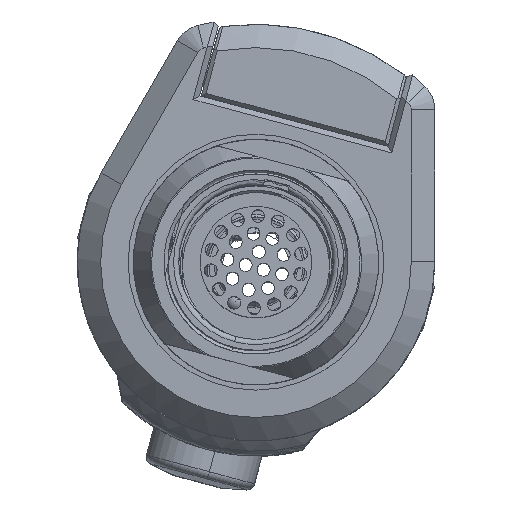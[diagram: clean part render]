
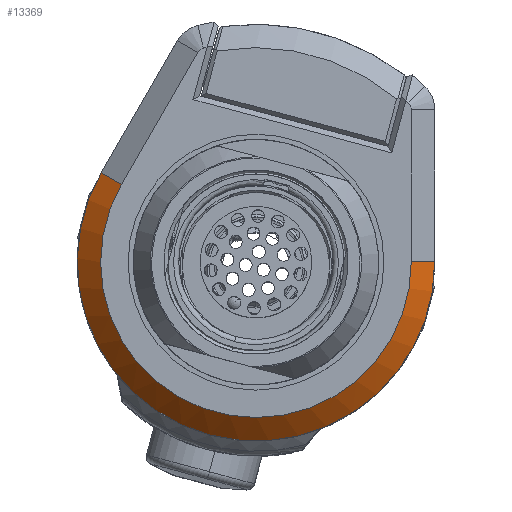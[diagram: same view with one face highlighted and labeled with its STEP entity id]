
A CAD part, top view. The second image highlights one B-rep face of the part: STEP entity #13369.
In plain terms, the highlighted conical face has half-angle 45 degrees and reference radius 17.462 mm.
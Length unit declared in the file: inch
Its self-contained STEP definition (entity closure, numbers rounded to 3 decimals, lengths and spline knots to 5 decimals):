
#572 = CARTESIAN_POINT ( 'NONE',  ( 0., 0., 3.7346 ) ) ;
#3514 = CARTESIAN_POINT ( 'NONE',  ( -0.59539, 0.34375, 3.7346 ) ) ;
#3517 = DIRECTION ( 'NONE',  ( 0.612, -0.354, 0.707 ) ) ;
#3545 = CARTESIAN_POINT ( 'NONE',  ( 0., 0., 3.7346 ) ) ;
#3556 = DIRECTION ( 'NONE',  ( 0.259, 0.966, 0. ) ) ;
#3558 = DIRECTION ( 'NONE',  ( 0., 0., 1. ) ) ;
#3560 = DIRECTION ( 'NONE',  ( 0., 0., -1. ) ) ;
#3562 = DIRECTION ( 'NONE',  ( 0.259, 0.966, 0. ) ) ;
#3564 = CARTESIAN_POINT ( 'NONE',  ( 0., 0., 3.8246 ) ) ;
#3566 = LINE ( 'NONE', #3514, #11926 ) ;
#3623 = CARTESIAN_POINT ( 'NONE',  ( 0.65749, 0.00264, 3.7646 ) ) ;
#4035 = CARTESIAN_POINT ( 'NONE',  ( 0.68749, 0.0027, 3.7346 ) ) ;
#4049 = CARTESIAN_POINT ( 'NONE',  ( 0.62749, 0.00258, 3.7946 ) ) ;
#4050 = CARTESIAN_POINT ( 'NONE',  ( 0.59749, 0.00252, 3.8246 ) ) ;
#4981 = CARTESIAN_POINT ( 'NONE',  ( -0.59539, 0.34375, 3.7346 ) ) ;
#5067 = CARTESIAN_POINT ( 'NONE',  ( -0.17794, -0.66407, 3.7346 ) ) ;
#7134 = CARTESIAN_POINT ( 'NONE',  ( 0.68749, 0.0027, 3.7346 ) ) ;
#7256 = CARTESIAN_POINT ( 'NONE',  ( 0.59749, 0.00252, 3.8246 ) ) ;
#7344 = CARTESIAN_POINT ( 'NONE',  ( -0.51745, 0.29875, 3.8246 ) ) ;
#8660 = DIRECTION ( 'NONE',  ( 0.259, 0.966, 0. ) ) ;
#8661 = DIRECTION ( 'NONE',  ( 0., 0., -1. ) ) ;
#11518 = AXIS2_PLACEMENT_3D ( 'NONE', #572, #8661, #8660 ) ;
#11542 = FACE_OUTER_BOUND ( 'NONE', #20020, .T. ) ;
#11926 = VECTOR ( 'NONE', #3517, 39.37008 ) ;
#11981 = AXIS2_PLACEMENT_3D ( 'NONE', #3564, #3558, #3562 ) ;
#11983 = AXIS2_PLACEMENT_3D ( 'NONE', #3545, #3560, #3556 ) ;
#12122 = AXIS2_PLACEMENT_3D ( 'NONE', #19166, #19161, #19160 ) ;
#13000 = EDGE_CURVE ( 'NONE', #21076, #21240, #14515, .T. ) ;
#13010 = EDGE_CURVE ( 'NONE', #21076, #22795, #14553, .T. ) ;
#13011 = EDGE_CURVE ( 'NONE', #21360, #21240, #14558, .T. ) ;
#13012 = EDGE_CURVE ( 'NONE', #22576, #21360, #3566, .T. ) ;
#13145 = EDGE_CURVE ( 'NONE', #22795, #22576, #14503, .T. ) ;
#13369 = ADVANCED_FACE ( 'NONE', ( #11542 ), #14474, .T. ) ;
#14474 = CONICAL_SURFACE ( 'NONE', #11518, 0.6875, 0.785 ) ;
#14503 = CIRCLE ( 'NONE', #12122, 0.6875 ) ;
#14515 = B_SPLINE_CURVE_WITH_KNOTS ( 'NONE', 3,
 ( #4035, #3623, #4049, #4050 ),
 .UNSPECIFIED., .F., .F.,
 ( 4, 4 ),
 ( 0., 0.00323 ),
 .UNSPECIFIED. ) ;
#14553 = CIRCLE ( 'NONE', #11983, 0.6875 ) ;
#14558 = CIRCLE ( 'NONE', #11981, 0.5975 ) ;
#19160 = DIRECTION ( 'NONE',  ( 0.259, 0.966, 0. ) ) ;
#19161 = DIRECTION ( 'NONE',  ( 0., 0., -1. ) ) ;
#19166 = CARTESIAN_POINT ( 'NONE',  ( 0., 0., 3.7346 ) ) ;
#20020 = EDGE_LOOP ( 'NONE', ( #25542, #25450, #25426, #25382, #25197 ) ) ;
#21076 = VERTEX_POINT ( 'NONE', #7134 ) ;
#21240 = VERTEX_POINT ( 'NONE', #7256 ) ;
#21360 = VERTEX_POINT ( 'NONE', #7344 ) ;
#22576 = VERTEX_POINT ( 'NONE', #4981 ) ;
#22795 = VERTEX_POINT ( 'NONE', #5067 ) ;
#25197 = ORIENTED_EDGE ( 'NONE', *, *, #13010, .F. ) ;
#25382 = ORIENTED_EDGE ( 'NONE', *, *, #13145, .F. ) ;
#25426 = ORIENTED_EDGE ( 'NONE', *, *, #13012, .F. ) ;
#25450 = ORIENTED_EDGE ( 'NONE', *, *, #13011, .F. ) ;
#25542 = ORIENTED_EDGE ( 'NONE', *, *, #13000, .T. ) ;
